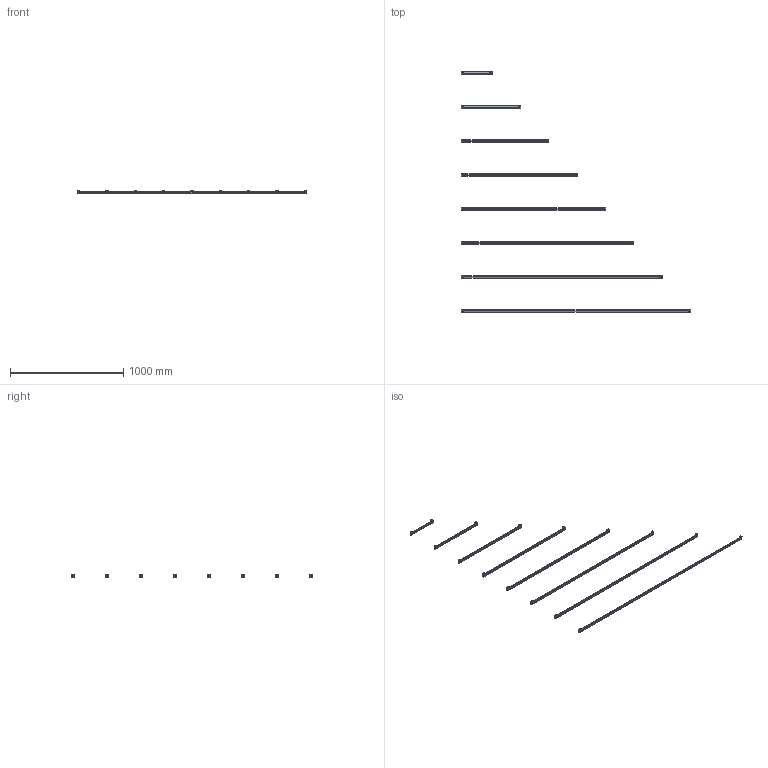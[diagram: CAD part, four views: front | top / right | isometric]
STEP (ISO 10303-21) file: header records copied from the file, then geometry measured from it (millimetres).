
FILE_DESCRIPTION(/* description */ (''),/* implementation_level */ '2;1');
FILE_NAME(/* name */ 'C:/Users/elena/OneDrive/Allegati di posta elettronica/Desktop/Piko colour 01A .step',/* time_stamp */ '2020-05-18T14:59:10+02:00',/* author */ (''),/* organization */ (''),/* preprocessor_version */ 'ST-DEVELOPER v18.1',/* originating_system */ 'Autodesk Translation Framework v9.3.0.1241',/* authorisation */ '');
FILE_SCHEMA (('AUTOMOTIVE_DESIGN { 1 0 10303 214 3 1 1 }'));
Products named in the file (2): Piko colour 01A; 01A
Assembly tree (1 placements, depth 2):
  Piko colour 01A
    01A
Bounding box: 2022 x 2119.8 x 31.04 mm (x, y, z)
Volume: 2231721.5 mm3; surface area: 1096700.9 mm2
Topology: 48 solids, 48 shells, 1329 faces, 3352 edges, 2199 vertices
Faces by surface type: cylinder 752, plane 481, bspline 80, cone 16
Full cylindrical faces by diameter (mm): 2.5 x32, 3 x16, 7 x32, 19.8 x16
Entity records: 51622 total; most frequent: CARTESIAN_POINT 18275, DIRECTION 7280, ORIENTED_EDGE 6704, EDGE_CURVE 3352, AXIS2_PLACEMENT_3D 2804, VERTEX_POINT 2199, LINE 1672, VECTOR 1672
